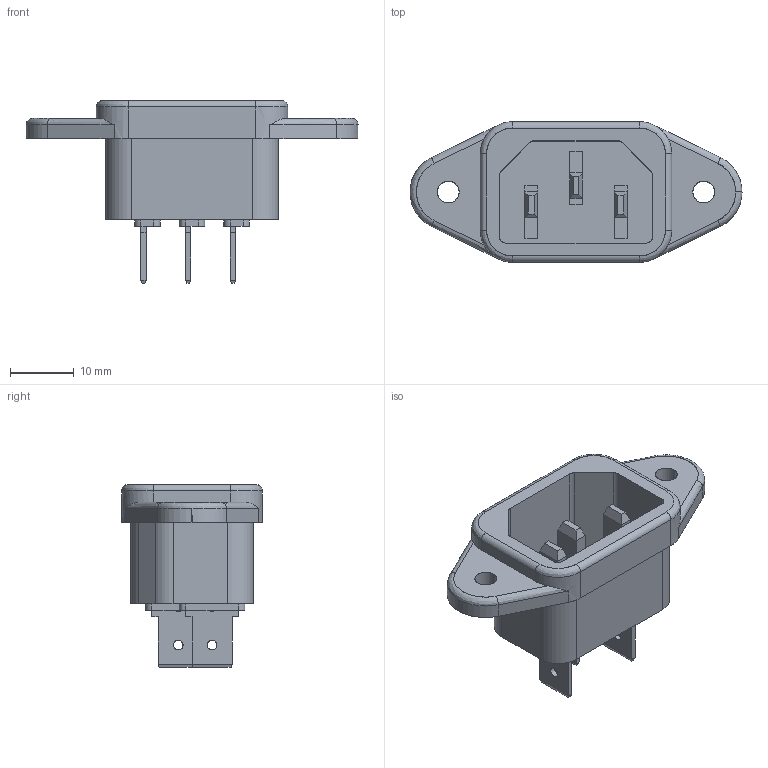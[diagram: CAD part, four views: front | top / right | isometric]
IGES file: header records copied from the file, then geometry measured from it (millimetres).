
Start section: SolidWorks IGES file using analytic representation for surfaces
Global section: file name: C:\Users\coleman.downey\Desktop\temp\240\IEC320-C14RCPT.IGS; native system: SolidWorks 2016; preprocessor: SolidWorks 2016; author: coleman.downey; date: 160721.103031; units: millimetre
Bounding box: 52 x 22 x 28.65 mm (x, y, z)
Surface area: 5974.9 mm2 (no closed solid volume)
Topology: 0 solids, 0 shells, 175 faces, 1582 edges, 1582 vertices
Faces by surface type: bspline 120, revolution 55
